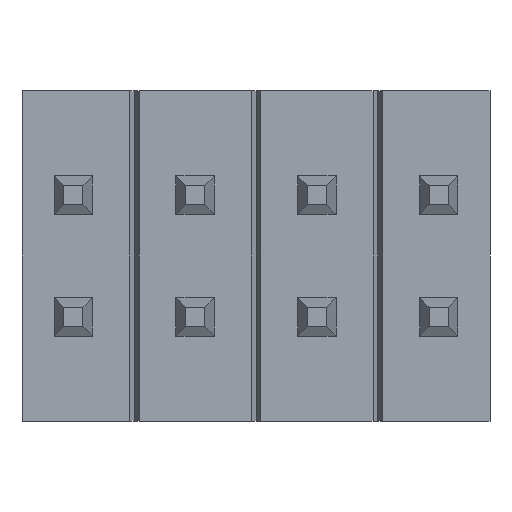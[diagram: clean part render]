
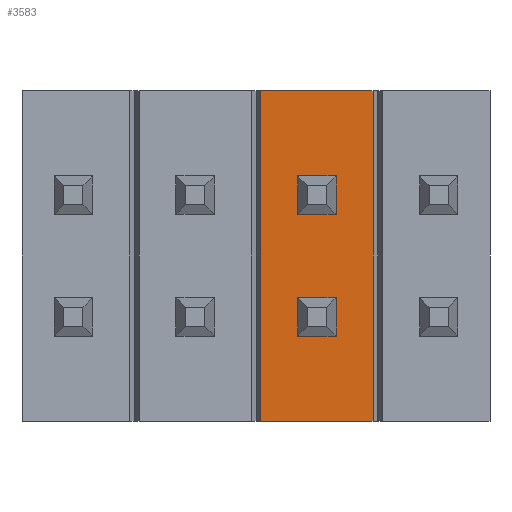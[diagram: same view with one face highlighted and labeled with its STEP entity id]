
A CAD part, front view. The second image highlights one B-rep face of the part: STEP entity #3583.
In plain terms, the highlighted planar face has unit normal (0, -1, 0).
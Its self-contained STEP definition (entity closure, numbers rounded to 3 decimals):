
#27 = ORIENTED_EDGE ( 'NONE', *, *, #2111, .T. ) ;
#29 = LINE ( 'NONE', #4357, #279 ) ;
#84 = ORIENTED_EDGE ( 'NONE', *, *, #3516, .F. ) ;
#95 = CARTESIAN_POINT ( 'NONE',  ( -33.984, 22.314, 0.835 ) ) ;
#135 = DIRECTION ( 'NONE',  ( -1., 0., 0. ) ) ;
#138 = EDGE_CURVE ( 'NONE', #2898, #3163, #1836, .T. ) ;
#168 = LINE ( 'NONE', #3435, #2503 ) ;
#183 = PLANE ( 'NONE',  #1065 ) ;
#193 = VECTOR ( 'NONE', #4641, 1000. ) ;
#204 = VECTOR ( 'NONE', #1994, 1000. ) ;
#212 = ORIENTED_EDGE ( 'NONE', *, *, #730, .F. ) ;
#231 = CARTESIAN_POINT ( 'NONE',  ( -33.984, 22.314, -0.835 ) ) ;
#279 = VECTOR ( 'NONE', #1833, 1000. ) ;
#318 = ORIENTED_EDGE ( 'NONE', *, *, #615, .T. ) ;
#322 = EDGE_CURVE ( 'NONE', #1979, #2898, #1587, .T. ) ;
#336 = LINE ( 'NONE', #384, #3283 ) ;
#384 = CARTESIAN_POINT ( 'NONE',  ( -33.984, 22.314, -0.435 ) ) ;
#496 = CARTESIAN_POINT ( 'NONE',  ( -34.369, 22.314, -1.725 ) ) ;
#502 = FACE_BOUND ( 'NONE', #3845, .T. ) ;
#615 = EDGE_CURVE ( 'NONE', #1241, #4458, #2057, .T. ) ;
#665 = DIRECTION ( 'NONE',  ( 1., 0., 0. ) ) ;
#730 = EDGE_CURVE ( 'NONE', #2366, #2542, #2854, .T. ) ;
#854 = LINE ( 'NONE', #2665, #968 ) ;
#856 = CARTESIAN_POINT ( 'NONE',  ( -33.984, 22.314, -0.835 ) ) ;
#940 = ORIENTED_EDGE ( 'NONE', *, *, #3071, .T. ) ;
#951 = LINE ( 'NONE', #3558, #193 ) ;
#954 = EDGE_CURVE ( 'NONE', #2363, #1241, #951, .T. ) ;
#968 = VECTOR ( 'NONE', #3448, 1000. ) ;
#980 = ORIENTED_EDGE ( 'NONE', *, *, #2559, .F. ) ;
#1065 = AXIS2_PLACEMENT_3D ( 'NONE', #3048, #3426, #4512 ) ;
#1069 = VECTOR ( 'NONE', #2962, 1000. ) ;
#1075 = CARTESIAN_POINT ( 'NONE',  ( -34.369, 22.314, 1.725 ) ) ;
#1164 = ORIENTED_EDGE ( 'NONE', *, *, #1281, .T. ) ;
#1241 = VERTEX_POINT ( 'NONE', #4414 ) ;
#1261 = CARTESIAN_POINT ( 'NONE',  ( -33.984, 22.314, -0.435 ) ) ;
#1281 = EDGE_CURVE ( 'NONE', #1861, #1979, #168, .T. ) ;
#1285 = VECTOR ( 'NONE', #2689, 1000. ) ;
#1482 = VERTEX_POINT ( 'NONE', #2000 ) ;
#1517 = VERTEX_POINT ( 'NONE', #1075 ) ;
#1523 = VECTOR ( 'NONE', #2723, 1000. ) ;
#1587 = LINE ( 'NONE', #3052, #1285 ) ;
#1620 = CARTESIAN_POINT ( 'NONE',  ( -34.369, 22.314, 1.725 ) ) ;
#1817 = ORIENTED_EDGE ( 'NONE', *, *, #954, .T. ) ;
#1833 = DIRECTION ( 'NONE',  ( 0., 0., -1. ) ) ;
#1836 = LINE ( 'NONE', #95, #1069 ) ;
#1861 = VERTEX_POINT ( 'NONE', #2785 ) ;
#1979 = VERTEX_POINT ( 'NONE', #2170 ) ;
#1994 = DIRECTION ( 'NONE',  ( 0., 0., 1. ) ) ;
#2000 = CARTESIAN_POINT ( 'NONE',  ( -34.369, 22.314, -1.725 ) ) ;
#2057 = LINE ( 'NONE', #4233, #3722 ) ;
#2111 = EDGE_CURVE ( 'NONE', #4458, #2972, #4490, .T. ) ;
#2170 = CARTESIAN_POINT ( 'NONE',  ( -33.984, 22.314, 0.435 ) ) ;
#2363 = VERTEX_POINT ( 'NONE', #2527 ) ;
#2366 = VERTEX_POINT ( 'NONE', #2493 ) ;
#2369 = CARTESIAN_POINT ( 'NONE',  ( -33.984, 22.314, 0.835 ) ) ;
#2493 = CARTESIAN_POINT ( 'NONE',  ( -33.199, 22.314, 1.725 ) ) ;
#2503 = VECTOR ( 'NONE', #3842, 1000. ) ;
#2517 = VECTOR ( 'NONE', #135, 1000. ) ;
#2527 = CARTESIAN_POINT ( 'NONE',  ( -33.584, 22.314, -0.435 ) ) ;
#2542 = VERTEX_POINT ( 'NONE', #3419 ) ;
#2559 = EDGE_CURVE ( 'NONE', #2542, #1482, #3362, .T. ) ;
#2603 = EDGE_CURVE ( 'NONE', #1517, #2366, #3083, .T. ) ;
#2665 = CARTESIAN_POINT ( 'NONE',  ( -34.369, 22.314, -1.725 ) ) ;
#2689 = DIRECTION ( 'NONE',  ( 0., 0., 1. ) ) ;
#2723 = DIRECTION ( 'NONE',  ( 1., 0., 0. ) ) ;
#2785 = CARTESIAN_POINT ( 'NONE',  ( -33.584, 22.314, 0.435 ) ) ;
#2854 = LINE ( 'NONE', #3209, #2961 ) ;
#2890 = ORIENTED_EDGE ( 'NONE', *, *, #4161, .T. ) ;
#2898 = VERTEX_POINT ( 'NONE', #2369 ) ;
#2961 = VECTOR ( 'NONE', #4313, 1000. ) ;
#2962 = DIRECTION ( 'NONE',  ( 1., 0., 0. ) ) ;
#2972 = VERTEX_POINT ( 'NONE', #1261 ) ;
#3048 = CARTESIAN_POINT ( 'NONE',  ( -34.369, 22.314, -1.725 ) ) ;
#3052 = CARTESIAN_POINT ( 'NONE',  ( -33.984, 22.314, 0.435 ) ) ;
#3071 = EDGE_CURVE ( 'NONE', #2972, #2363, #336, .T. ) ;
#3083 = LINE ( 'NONE', #1620, #1523 ) ;
#3113 = FACE_BOUND ( 'NONE', #4017, .T. ) ;
#3163 = VERTEX_POINT ( 'NONE', #3695 ) ;
#3183 = EDGE_LOOP ( 'NONE', ( #4476, #84, #980, #212 ) ) ;
#3209 = CARTESIAN_POINT ( 'NONE',  ( -33.199, 22.314, -1.725 ) ) ;
#3283 = VECTOR ( 'NONE', #665, 1000. ) ;
#3362 = LINE ( 'NONE', #496, #2517 ) ;
#3419 = CARTESIAN_POINT ( 'NONE',  ( -33.199, 22.314, -1.725 ) ) ;
#3426 = DIRECTION ( 'NONE',  ( 0., 1., 0. ) ) ;
#3435 = CARTESIAN_POINT ( 'NONE',  ( -33.584, 22.314, 0.435 ) ) ;
#3448 = DIRECTION ( 'NONE',  ( 0., 0., 1. ) ) ;
#3516 = EDGE_CURVE ( 'NONE', #1482, #1517, #854, .T. ) ;
#3546 = ORIENTED_EDGE ( 'NONE', *, *, #322, .T. ) ;
#3558 = CARTESIAN_POINT ( 'NONE',  ( -33.584, 22.314, -0.435 ) ) ;
#3583 = ADVANCED_FACE ( 'NONE', ( #3113, #4587, #502 ), #183, .F. ) ;
#3695 = CARTESIAN_POINT ( 'NONE',  ( -33.584, 22.314, 0.835 ) ) ;
#3722 = VECTOR ( 'NONE', #4214, 1000. ) ;
#3842 = DIRECTION ( 'NONE',  ( -1., 0., 0. ) ) ;
#3845 = EDGE_LOOP ( 'NONE', ( #3546, #4236, #2890, #1164 ) ) ;
#4017 = EDGE_LOOP ( 'NONE', ( #27, #940, #1817, #318 ) ) ;
#4161 = EDGE_CURVE ( 'NONE', #3163, #1861, #29, .T. ) ;
#4214 = DIRECTION ( 'NONE',  ( -1., 0., 0. ) ) ;
#4233 = CARTESIAN_POINT ( 'NONE',  ( -33.584, 22.314, -0.835 ) ) ;
#4236 = ORIENTED_EDGE ( 'NONE', *, *, #138, .T. ) ;
#4313 = DIRECTION ( 'NONE',  ( 0., 0., -1. ) ) ;
#4357 = CARTESIAN_POINT ( 'NONE',  ( -33.584, 22.314, 0.835 ) ) ;
#4414 = CARTESIAN_POINT ( 'NONE',  ( -33.584, 22.314, -0.835 ) ) ;
#4458 = VERTEX_POINT ( 'NONE', #231 ) ;
#4476 = ORIENTED_EDGE ( 'NONE', *, *, #2603, .F. ) ;
#4490 = LINE ( 'NONE', #856, #204 ) ;
#4512 = DIRECTION ( 'NONE',  ( 1., 0., 0. ) ) ;
#4587 = FACE_OUTER_BOUND ( 'NONE', #3183, .T. ) ;
#4641 = DIRECTION ( 'NONE',  ( 0., 0., -1. ) ) ;
